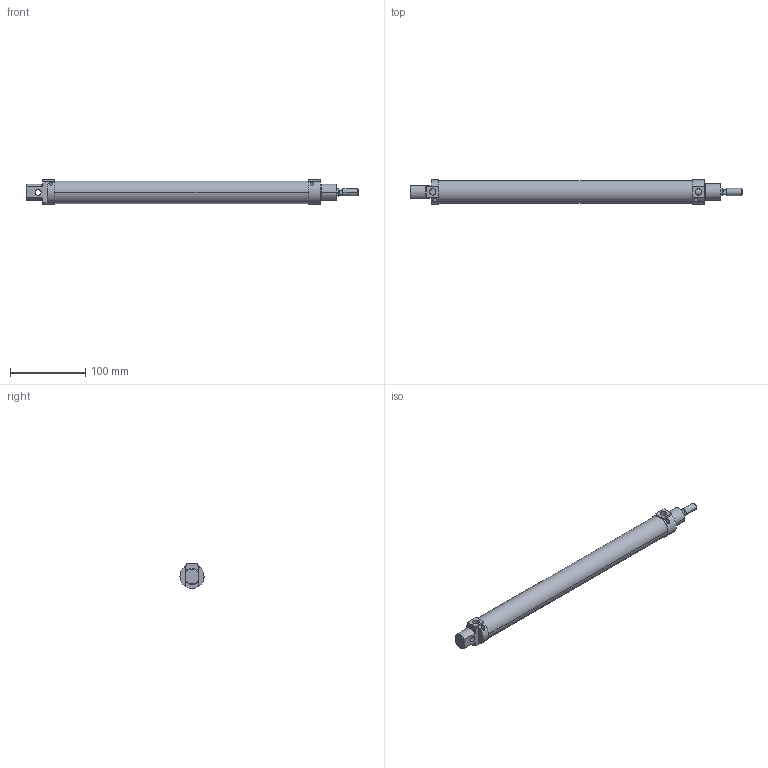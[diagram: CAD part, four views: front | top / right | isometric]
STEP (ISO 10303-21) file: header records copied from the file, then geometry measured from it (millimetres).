
FILE_DESCRIPTION(('CATIA V5 STEP Exchange'),'2;1');
FILE_NAME('D:\stp file for catalog\PSN\25\PSN-25-10-300.stp','2018-04-29T05:10:18+00:00',('none'),('none'),'CATIA Version 5-6 Release 2016','CATIA V5 STEP AP203','none');
FILE_SCHEMA(('CONFIG_CONTROL_DESIGN'));
Length unit declared in the file: millimetre
Products named in the file (1): PSN-25-10-300-00
Assembly tree (2 placements, depth 2):
  PSN-25-10-300-00
    #57
    #2060
Bounding box: 441 x 32 x 33 mm (x, y, z)
Volume: 146836.3 mm3; surface area: 86277.4 mm2
Topology: 2 solids, 2 shells, 104 faces, 246 edges, 160 vertices
Faces by surface type: plane 52, cylinder 46, cone 6
Entity records: 2883 total; most frequent: CARTESIAN_POINT 631, ORIENTED_EDGE 492, DIRECTION 342, EDGE_CURVE 246, AXIS2_PLACEMENT_3D 169, VERTEX_POINT 160, EDGE_LOOP 122, VECTOR 116
